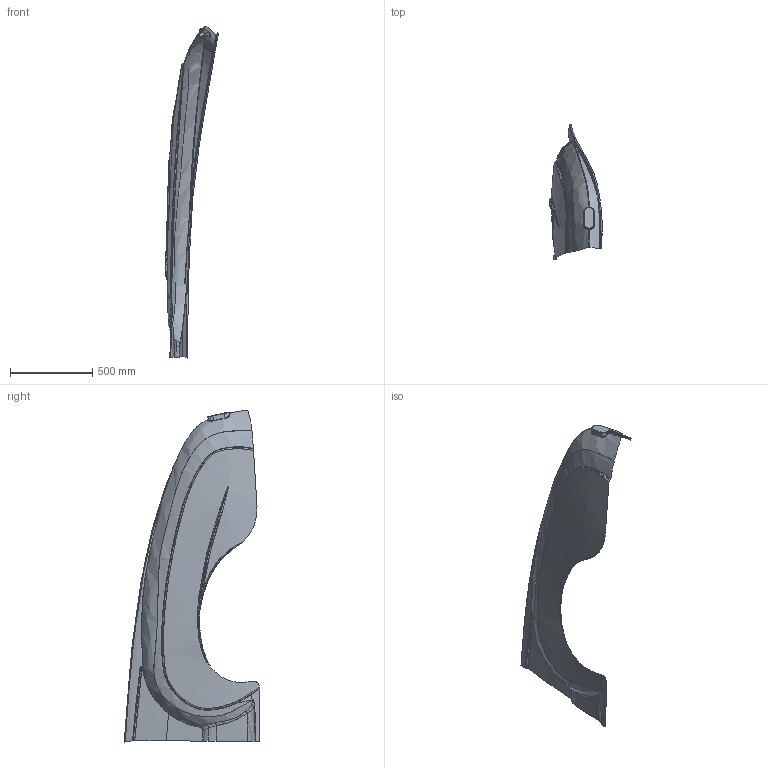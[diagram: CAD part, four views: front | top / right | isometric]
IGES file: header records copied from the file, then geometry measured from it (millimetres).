
Start section:  PTC IGES file: D:\Samples\Fender\Fender Clean CAD Surface Inches.igs
Global section: file name: D:\Samples\Fender\Fender Clean CAD Surface Inches.igs; native system:  by Parametric Technology Corporation; preprocessor: 2012230; organization: Unknown; date: 20180608.151154; units: inch
Bounding box: 317.57 x 823.13 x 2013.88 mm (x, y, z)
Surface area: 1264147.1 mm2 (no closed solid volume)
Topology: 0 solids, 0 shells, 118 faces, 552 edges, 547 vertices
Faces by surface type: bspline 92, revolution 26
